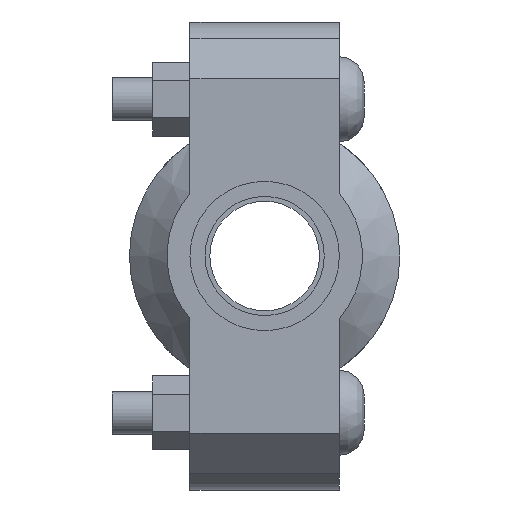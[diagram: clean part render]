
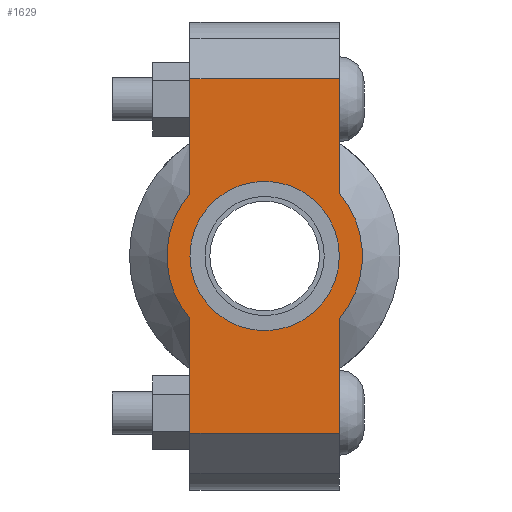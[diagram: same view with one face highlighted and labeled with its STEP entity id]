
A CAD part, left-side view. The second image highlights one B-rep face of the part: STEP entity #1629.
In plain terms, the highlighted planar face has unit normal (-1, 0, 0) as drawn and (0, 0, 1) by its records, which use the part's own axes.
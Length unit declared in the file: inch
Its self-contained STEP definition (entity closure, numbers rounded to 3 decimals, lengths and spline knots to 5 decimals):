
#184=LINE('',#2817,#281);
#199=LINE('',#2876,#296);
#207=LINE('',#2906,#304);
#209=LINE('',#2909,#306);
#210=LINE('',#2914,#307);
#211=LINE('',#2915,#308);
#281=VECTOR('',#2289,0.3937);
#296=VECTOR('',#2324,0.3937);
#304=VECTOR('',#2344,0.3937);
#306=VECTOR('',#2348,0.3937);
#307=VECTOR('',#2353,0.3937);
#308=VECTOR('',#2354,0.3937);
#372=FACE_BOUND('',#549,.T.);
#440=FACE_OUTER_BOUND('',#548,.T.);
#548=EDGE_LOOP('',(#1330,#1331,#1332,#1333,#1334,#1335,#1336,#1337));
#549=EDGE_LOOP('',(#1338));
#631=CIRCLE('',#1857,0.6575);
#655=CIRCLE('',#1909,0.86);
#656=CIRCLE('',#1910,0.86);
#727=VERTEX_POINT('',#2643);
#768=VERTEX_POINT('',#2814);
#769=VERTEX_POINT('',#2816);
#790=VERTEX_POINT('',#2871);
#791=VERTEX_POINT('',#2875);
#800=VERTEX_POINT('',#2901);
#801=VERTEX_POINT('',#2905);
#802=VERTEX_POINT('',#2911);
#803=VERTEX_POINT('',#2913);
#891=EDGE_CURVE('',#727,#727,#631,.T.);
#948=EDGE_CURVE('',#769,#768,#184,.T.);
#973=EDGE_CURVE('',#791,#790,#199,.T.);
#986=EDGE_CURVE('',#801,#800,#207,.T.);
#988=EDGE_CURVE('',#801,#768,#209,.T.);
#989=EDGE_CURVE('',#800,#802,#655,.T.);
#990=EDGE_CURVE('',#802,#803,#210,.T.);
#991=EDGE_CURVE('',#791,#803,#211,.T.);
#992=EDGE_CURVE('',#790,#769,#656,.T.);
#1330=ORIENTED_EDGE('',*,*,#988,.F.);
#1331=ORIENTED_EDGE('',*,*,#986,.T.);
#1332=ORIENTED_EDGE('',*,*,#989,.T.);
#1333=ORIENTED_EDGE('',*,*,#990,.T.);
#1334=ORIENTED_EDGE('',*,*,#991,.F.);
#1335=ORIENTED_EDGE('',*,*,#973,.T.);
#1336=ORIENTED_EDGE('',*,*,#992,.T.);
#1337=ORIENTED_EDGE('',*,*,#948,.T.);
#1338=ORIENTED_EDGE('',*,*,#891,.T.);
#1469=PLANE('',#1908);
#1629=ADVANCED_FACE('',(#440,#372),#1469,.T.);
#1857=AXIS2_PLACEMENT_3D('',#2645,#2179,#2180);
#1908=AXIS2_PLACEMENT_3D('',#2910,#2349,#2350);
#1909=AXIS2_PLACEMENT_3D('',#2912,#2351,#2352);
#1910=AXIS2_PLACEMENT_3D('',#2916,#2355,#2356);
#2179=DIRECTION('center_axis',(0.,0.,-1.));
#2180=DIRECTION('ref_axis',(-1.,0.,0.));
#2289=DIRECTION('',(-1.,0.,0.));
#2324=DIRECTION('',(-1.,0.,0.));
#2344=DIRECTION('',(1.,0.,0.));
#2348=DIRECTION('',(0.,1.,0.));
#2349=DIRECTION('center_axis',(0.,0.,1.));
#2350=DIRECTION('ref_axis',(1.,0.,0.));
#2351=DIRECTION('center_axis',(0.,0.,1.));
#2352=DIRECTION('ref_axis',(-1.,0.,0.));
#2353=DIRECTION('',(1.,0.,0.));
#2354=DIRECTION('',(0.,-1.,0.));
#2355=DIRECTION('center_axis',(0.,0.,1.));
#2356=DIRECTION('ref_axis',(-1.,0.,0.));
#2643=CARTESIAN_POINT('',(0.6575,0.,0.875));
#2645=CARTESIAN_POINT('Origin',(0.,0.,0.875));
#2814=CARTESIAN_POINT('',(-1.56,0.6575,0.875));
#2816=CARTESIAN_POINT('',(-0.55434,0.6575,0.875));
#2817=CARTESIAN_POINT('',(2.06,0.6575,0.875));
#2871=CARTESIAN_POINT('',(0.55434,0.6575,0.875));
#2875=CARTESIAN_POINT('',(1.56,0.6575,0.875));
#2876=CARTESIAN_POINT('',(2.06,0.6575,0.875));
#2901=CARTESIAN_POINT('',(-0.55434,-0.6575,0.875));
#2905=CARTESIAN_POINT('',(-1.56,-0.6575,0.875));
#2906=CARTESIAN_POINT('',(-2.06,-0.6575,0.875));
#2909=CARTESIAN_POINT('',(-1.56,0.32875,0.875));
#2910=CARTESIAN_POINT('Origin',(0.,0.,
0.875));
#2911=CARTESIAN_POINT('',(0.55434,-0.6575,0.875));
#2912=CARTESIAN_POINT('Origin',(0.,0.,0.875));
#2913=CARTESIAN_POINT('',(1.56,-0.6575,0.875));
#2914=CARTESIAN_POINT('',(-2.06,-0.6575,0.875));
#2915=CARTESIAN_POINT('',(1.56,-0.32875,0.875));
#2916=CARTESIAN_POINT('Origin',(0.,0.,0.875));
